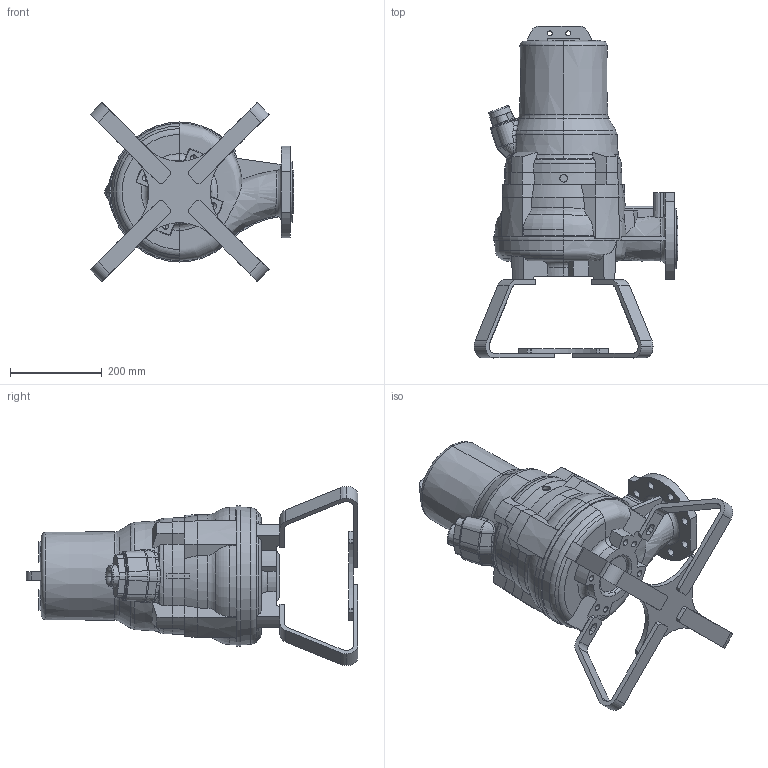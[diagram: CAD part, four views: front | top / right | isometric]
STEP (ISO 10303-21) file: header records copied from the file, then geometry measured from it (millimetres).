
FILE_DESCRIPTION (( 'STEP AP203' ), '1' );
FILE_NAME ('80FWC-V_5,5kW BASE FRAME.STEP', '2025-03-21T10:21:37', ( '' ), ( '' ), 'SwSTEP 2.0', 'SolidWorks 2023', '' );
FILE_SCHEMA (( 'CONFIG_CONTROL_DESIGN' ));
Length unit declared in the file: millimetre
Products named in the file (1): 80FWC-V_5,5kW BASE FRAME
Bounding box: 443.97 x 723 x 389.95 mm (x, y, z)
Volume: 25929271 mm3; surface area: 872770.3 mm2
Topology: 1 solids, 2 shells, 711 faces, 1873 edges, 1194 vertices
Faces by surface type: plane 300, cylinder 134, cone 119, bspline 96, torus 56, sphere 6
Entity records: 29236 total; most frequent: CARTESIAN_POINT 12294, ORIENTED_EDGE 3722, DIRECTION 3292, EDGE_CURVE 1861, AXIS2_PLACEMENT_3D 1254, VERTEX_POINT 1194, VECTOR 784, LINE 784
